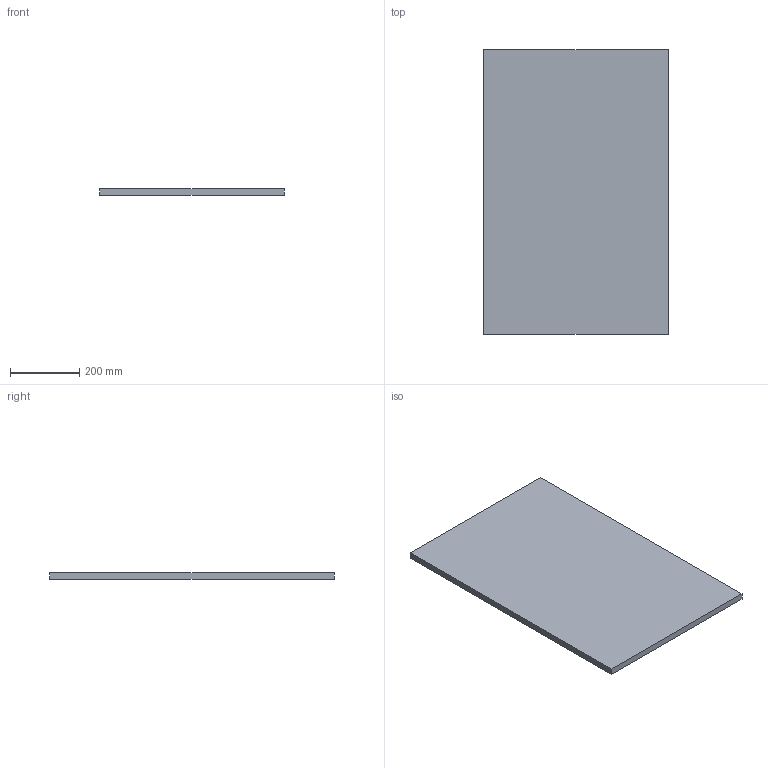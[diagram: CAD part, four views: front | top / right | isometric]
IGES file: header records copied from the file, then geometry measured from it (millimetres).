
Start section:  PTC IGES file: C:\Documents and Settings\Brad\Desktop\IGES\panel_back.i gs
Global section: file name: C:\Documents and Settings\Brad\Desktop\IGES\panel_back.igs; native system: Brad by Parametric Technology Corporation; preprocessor: 2003250; author: Unknown; organization: PTC; date: 040521.142625; units: inch
Bounding box: 533.4 x 823.47 x 19.05 mm (x, y, z)
Volume: 8367480.7 mm3; surface area: 930172.3 mm2
Topology: 1 solids, 1 shells, 6 faces, 12 edges, 8 vertices
Faces by surface type: bspline 6
